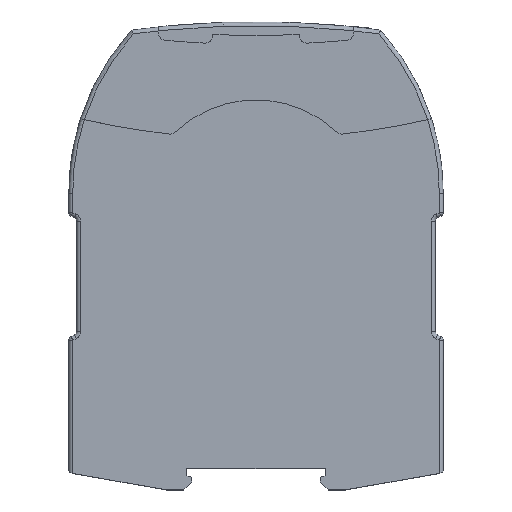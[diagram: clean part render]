
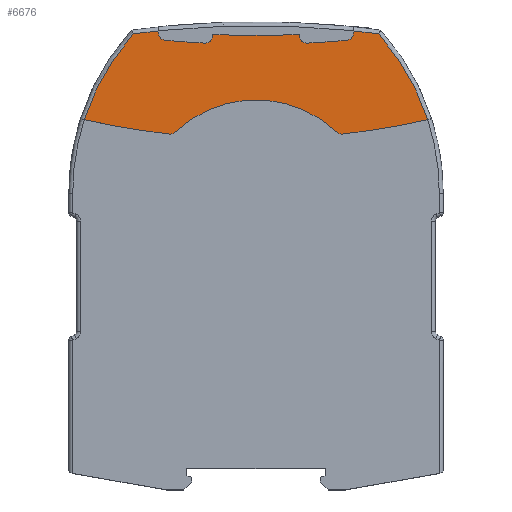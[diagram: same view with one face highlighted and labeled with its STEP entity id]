
A CAD part, top view. The second image highlights one B-rep face of the part: STEP entity #6676.
In plain terms, the highlighted planar face has unit normal (0, 0, 1).
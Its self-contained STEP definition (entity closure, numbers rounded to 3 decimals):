
#1657=CARTESIAN_POINT('',(-23.,117.259,17.4));
#1658=DIRECTION('',(0.,0.,-1.));
#1659=DIRECTION('',(-0.092,-0.996,0.));
#1660=AXIS2_PLACEMENT_3D('',#1657,#1658,#1659);
#2629=DIRECTION('',(0.174,-0.985,0.));
#2630=VECTOR('',#2629,0.558);
#2631=CARTESIAN_POINT('',(11.074,116.747,17.4));
#2632=LINE('',#2631,#2630);
#2636=CARTESIAN_POINT('',(0.,366.5,17.4));
#2637=DIRECTION('',(0.,0.,1.));
#2638=DIRECTION('',(0.052,-0.999,0.));
#2639=AXIS2_PLACEMENT_3D('',#2636,#2637,#2638);
#2644=DIRECTION('',(0.,1.,0.));
#2645=VECTOR('',#2644,0.383);
#2646=CARTESIAN_POINT('',(25.,117.259,17.4));
#2647=LINE('',#2646,#2645);
#2651=CARTESIAN_POINT('',(0.,-130.1,17.4));
#2652=DIRECTION('',(0.,0.,1.));
#2653=DIRECTION('',(0.126,0.992,0.));
#2654=AXIS2_PLACEMENT_3D('',#2651,#2652,#2653);
#2659=CARTESIAN_POINT('',(-14.531,76.,17.4));
#2660=DIRECTION('',(0.,0.,-1.));
#2661=DIRECTION('',(0.747,0.665,0.));
#2662=AXIS2_PLACEMENT_3D('',#2659,#2660,#2661);
#2667=CARTESIAN_POINT('',(0.,290.,17.4));
#2668=DIRECTION('',(0.,0.,1.));
#2669=DIRECTION('',(0.111,-0.994,0.));
#2670=AXIS2_PLACEMENT_3D('',#2667,#2668,#2669);
#2675=CARTESIAN_POINT('',(22.011,93.227,17.4));
#2676=DIRECTION('',(0.,0.,1.));
#2677=DIRECTION('',(-0.688,-0.726,0.));
#2678=AXIS2_PLACEMENT_3D('',#2675,#2676,#2677);
#2683=CARTESIAN_POINT('',(0.,70.,17.4));
#2684=DIRECTION('',(0.,0.,1.));
#2685=DIRECTION('',(0.688,0.726,0.));
#2686=AXIS2_PLACEMENT_3D('',#2683,#2684,#2685);
#2691=CARTESIAN_POINT('',(-22.011,93.227,17.4));
#2692=DIRECTION('',(0.,0.,1.));
#2693=DIRECTION('',(-0.111,-0.994,0.));
#2694=AXIS2_PLACEMENT_3D('',#2691,#2692,#2693);
#2699=CARTESIAN_POINT('',(0.,290.,17.4));
#2700=DIRECTION('',(0.,0.,1.));
#2701=DIRECTION('',(-0.22,-0.975,0.));
#2702=AXIS2_PLACEMENT_3D('',#2699,#2700,#2701);
#2707=CARTESIAN_POINT('',(14.531,76.,17.4));
#2708=DIRECTION('',(0.,0.,-1.));
#2709=DIRECTION('',(-0.952,0.307,0.));
#2710=AXIS2_PLACEMENT_3D('',#2707,#2708,#2709);
#2715=CARTESIAN_POINT('',(0.,-130.1,17.4));
#2716=DIRECTION('',(0.,0.,1.));
#2717=DIRECTION('',(-0.1,0.995,0.));
#2718=AXIS2_PLACEMENT_3D('',#2715,#2716,#2717);
#2723=DIRECTION('',(0.,-1.,0.));
#2724=VECTOR('',#2723,0.383);
#2725=CARTESIAN_POINT('',(-25.,117.642,17.4));
#2726=LINE('',#2725,#2724);
#2730=CARTESIAN_POINT('',(0.,366.5,17.4));
#2731=DIRECTION('',(0.,0.,1.));
#2732=DIRECTION('',(-0.092,-0.996,0.));
#2733=AXIS2_PLACEMENT_3D('',#2730,#2731,#2732);
#2738=DIRECTION('',(0.174,0.985,0.));
#2739=VECTOR('',#2738,0.554);
#2740=CARTESIAN_POINT('',(-11.17,116.198,17.4));
#2741=LINE('',#2740,#2739);
#2745=CARTESIAN_POINT('',(-0.047,366.5,17.4));
#2746=DIRECTION('',(0.,0.,1.));
#2747=DIRECTION('',(-0.044,-0.999,0.));
#2748=AXIS2_PLACEMENT_3D('',#2745,#2746,#2747);
#2767=CARTESIAN_POINT('',(13.14,116.545,17.4));
#2768=DIRECTION('',(0.,0.,-1.));
#2769=DIRECTION('',(0.052,-0.999,0.));
#2770=AXIS2_PLACEMENT_3D('',#2767,#2768,#2769);
#2789=CARTESIAN_POINT('',(23.,117.259,17.4));
#2790=DIRECTION('',(0.,0.,-1.));
#2791=DIRECTION('',(1.,0.,0.));
#2792=AXIS2_PLACEMENT_3D('',#2789,#2790,#2791);
#2979=CARTESIAN_POINT('',(-13.14,116.545,17.4));
#2980=DIRECTION('',(0.,0.,-1.));
#2981=DIRECTION('',(0.985,-0.174,0.));
#2982=AXIS2_PLACEMENT_3D('',#2979,#2980,#2981);
#4323=CARTESIAN_POINT('',(-11.074,116.743,17.4));
#4324=CARTESIAN_POINT('',(11.074,116.747,17.4));
#4325=VERTEX_POINT('',#4323);
#4326=VERTEX_POINT('',#4324);
#4417=CARTESIAN_POINT('',(-25.,117.642,17.4));
#4418=CARTESIAN_POINT('',(-31.432,116.908,17.4));
#4419=VERTEX_POINT('',#4417);
#4420=VERTEX_POINT('',#4418);
#4421=CARTESIAN_POINT('',(31.432,116.908,17.4));
#4422=CARTESIAN_POINT('',(25.,117.642,17.4));
#4423=VERTEX_POINT('',#4421);
#4424=VERTEX_POINT('',#4422);
#4573=CARTESIAN_POINT('',(-44.024,94.905,17.4));
#4574=VERTEX_POINT('',#4573);
#4575=CARTESIAN_POINT('',(44.024,94.905,17.4));
#4576=VERTEX_POINT('',#4575);
#4712=CARTESIAN_POINT('',(20.636,91.776,17.4));
#4713=CARTESIAN_POINT('',(22.234,91.24,17.4));
#4714=VERTEX_POINT('',#4712);
#4715=VERTEX_POINT('',#4713);
#4720=CARTESIAN_POINT('',(-22.234,91.24,17.4));
#4721=CARTESIAN_POINT('',(-20.636,91.776,17.4));
#4722=VERTEX_POINT('',#4720);
#4723=VERTEX_POINT('',#4721);
#4761=CARTESIAN_POINT('',(-25.,117.259,17.4));
#4763=VERTEX_POINT('',#4761);
#4766=CARTESIAN_POINT('',(-23.184,115.267,17.4));
#4767=VERTEX_POINT('',#4766);
#4769=CARTESIAN_POINT('',(23.184,115.267,17.4));
#4771=VERTEX_POINT('',#4769);
#4774=CARTESIAN_POINT('',(25.,117.259,17.4));
#4775=VERTEX_POINT('',#4774);
#4780=CARTESIAN_POINT('',(13.245,114.548,17.4));
#4781=VERTEX_POINT('',#4780);
#4782=CARTESIAN_POINT('',(-13.245,114.548,17.4));
#4783=VERTEX_POINT('',#4782);
#4786=CARTESIAN_POINT('',(-11.17,116.198,17.4));
#4787=VERTEX_POINT('',#4786);
#4789=CARTESIAN_POINT('',(11.17,116.198,17.4));
#4791=VERTEX_POINT('',#4789);
#6634=CARTESIAN_POINT('',(0.,0.,17.4));
#6635=DIRECTION('',(0.,0.,1.));
#6636=DIRECTION('',(1.,0.,0.));
#6637=AXIS2_PLACEMENT_3D('',#6634,#6635,#6636);
#6638=PLANE('',#6637);
#6640=ORIENTED_EDGE('',*,*,#6639,.T.);
#6642=ORIENTED_EDGE('',*,*,#6641,.F.);
#6644=ORIENTED_EDGE('',*,*,#6643,.T.);
#6646=ORIENTED_EDGE('',*,*,#6645,.F.);
#6648=ORIENTED_EDGE('',*,*,#6647,.T.);
#6650=ORIENTED_EDGE('',*,*,#6649,.F.);
#6652=ORIENTED_EDGE('',*,*,#6651,.T.);
#6653=ORIENTED_EDGE('',*,*,#6609,.F.);
#6654=ORIENTED_EDGE('',*,*,#6624,.F.);
#6656=ORIENTED_EDGE('',*,*,#6655,.T.);
#6658=ORIENTED_EDGE('',*,*,#6657,.F.);
#6660=ORIENTED_EDGE('',*,*,#6659,.F.);
#6662=ORIENTED_EDGE('',*,*,#6661,.T.);
#6663=ORIENTED_EDGE('',*,*,#5819,.F.);
#6664=ORIENTED_EDGE('',*,*,#5833,.T.);
#6665=ORIENTED_EDGE('',*,*,#5858,.F.);
#6667=ORIENTED_EDGE('',*,*,#6666,.T.);
#6669=ORIENTED_EDGE('',*,*,#6668,.F.);
#6671=ORIENTED_EDGE('',*,*,#6670,.T.);
#6673=ORIENTED_EDGE('',*,*,#6672,.T.);
#6674=EDGE_LOOP('',(#6640,#6642,#6644,#6646,#6648,#6650,#6652,#6653,#6654,#6656,
#6658,#6660,#6662,#6663,#6664,#6665,#6667,#6669,#6671,#6673));
#6675=FACE_OUTER_BOUND('',#6674,.F.);
#6676=ADVANCED_FACE('',(#6675),#6638,.T.);
#1661=CIRCLE('',#1660,2.);
#2640=CIRCLE('',#2639,252.3);
#2655=CIRCLE('',#2654,249.);
#2663=CIRCLE('',#2662,61.531);
#2671=CIRCLE('',#2670,200.);
#2679=CIRCLE('',#2678,2.);
#2687=CIRCLE('',#2686,30.);
#2695=CIRCLE('',#2694,2.);
#2703=CIRCLE('',#2702,200.);
#2711=CIRCLE('',#2710,61.531);
#2719=CIRCLE('',#2718,249.);
#2734=CIRCLE('',#2733,252.3);
#2749=CIRCLE('',#2748,250.);
#2771=CIRCLE('',#2770,2.);
#2793=CIRCLE('',#2792,2.);
#2983=CIRCLE('',#2982,2.);
#5819=EDGE_CURVE('',#4419,#4420,#2719,.T.);
#5833=EDGE_CURVE('',#4419,#4763,#2726,.T.);
#5858=EDGE_CURVE('',#4767,#4763,#1661,.T.);
#6609=EDGE_CURVE('',#4715,#4576,#2671,.T.);
#6624=EDGE_CURVE('',#4714,#4715,#2679,.T.);
#6639=EDGE_CURVE('',#4326,#4791,#2632,.T.);
#6641=EDGE_CURVE('',#4781,#4791,#2771,.T.);
#6643=EDGE_CURVE('',#4781,#4771,#2640,.T.);
#6645=EDGE_CURVE('',#4775,#4771,#2793,.T.);
#6647=EDGE_CURVE('',#4775,#4424,#2647,.T.);
#6649=EDGE_CURVE('',#4423,#4424,#2655,.T.);
#6651=EDGE_CURVE('',#4423,#4576,#2663,.T.);
#6655=EDGE_CURVE('',#4714,#4723,#2687,.T.);
#6657=EDGE_CURVE('',#4722,#4723,#2695,.T.);
#6659=EDGE_CURVE('',#4574,#4722,#2703,.T.);
#6661=EDGE_CURVE('',#4574,#4420,#2711,.T.);
#6666=EDGE_CURVE('',#4767,#4783,#2734,.T.);
#6668=EDGE_CURVE('',#4787,#4783,#2983,.T.);
#6670=EDGE_CURVE('',#4787,#4325,#2741,.T.);
#6672=EDGE_CURVE('',#4325,#4326,#2749,.T.);
